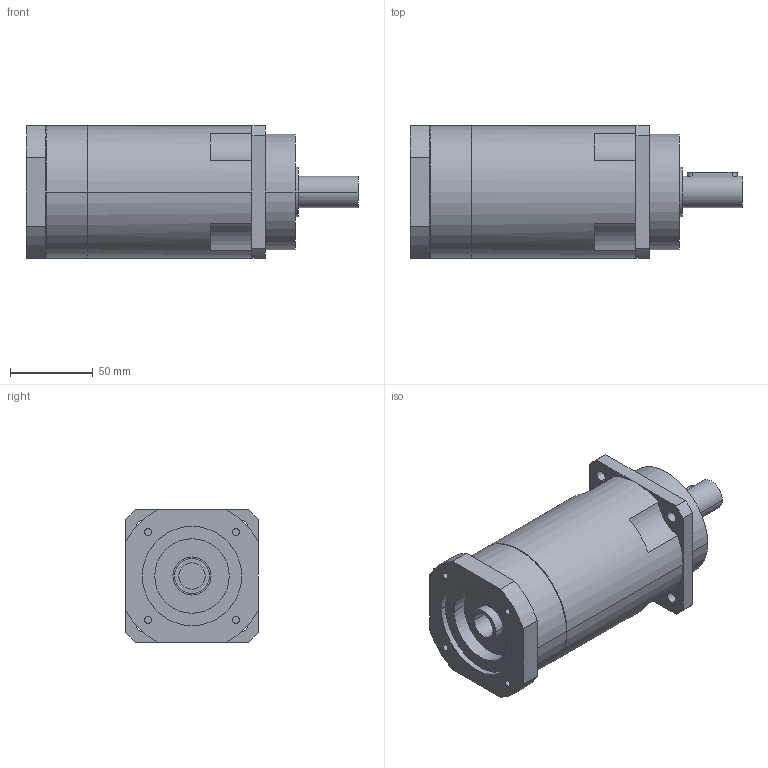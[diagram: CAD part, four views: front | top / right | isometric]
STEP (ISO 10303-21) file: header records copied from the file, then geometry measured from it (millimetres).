
FILE_DESCRIPTION(('CoCreate Modeling STEP Export'),'2;1');
FILE_NAME('GPR100_ig-48-64-80-100-120-144-180-216_19_B5_15.87_P23.stp','2014-08-26T11:55:20',(''),(''),'CoCreate Modeling STEP processor for AP214 (Solid Model)','CoCreate Modeling 16.00C 25-Feb-2009 (C) Parametric Technology GmbH','');
FILE_SCHEMA(('AUTOMOTIVE_DESIGN { 1 0 10303 214 1 1 1 1 }'));
Length unit declared in the file: millimetre
Products named in the file (2): GPR100_ig-48-64-80-100-120-144-180-216_19_B5_15.87_P23
Assembly tree (1 placements, depth 2):
  GPR100_ig-48-64-80-100-120-144-180-216_19_B5_15.87_P23
    GPR100_ig-48-64-80-100-120-144-180-216_19_B5_15.87_P23
Bounding box: 200.4 x 80 x 80 mm (x, y, z)
Volume: 787910.5 mm3; surface area: 64008.7 mm2
Topology: 1 solids, 1 shells, 93 faces, 243 edges, 165 vertices
Faces by surface type: cylinder 52, plane 35, cone 6
Entity records: 2596 total; most frequent: ORIENTED_EDGE 482, CARTESIAN_POINT 470, DIRECTION 386, EDGE_CURVE 241, VERTEX_POINT 165, AXIS2_PLACEMENT_3D 145, EDGE_LOOP 116, VECTOR 96
